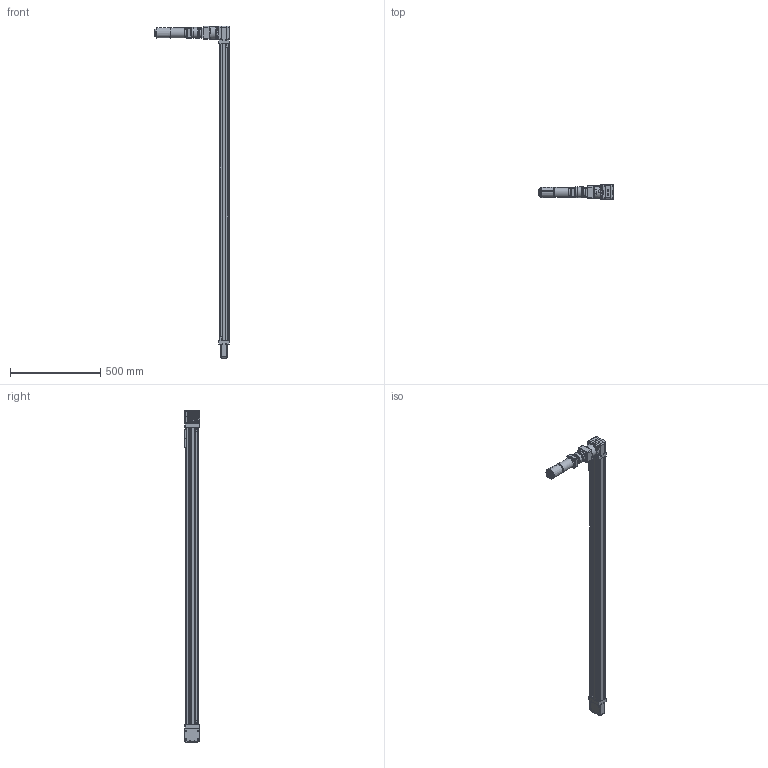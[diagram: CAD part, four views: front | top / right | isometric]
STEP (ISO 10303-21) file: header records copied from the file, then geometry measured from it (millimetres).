
FILE_DESCRIPTION (( 'STEP AP203' ), '1' );
FILE_NAME ('B3W10_BWS18_SK60.000_B3W-479241-1.step', '2025-01-17T15:17:10', ( '' ), ( '' ), 'SwSTEP 2.0', 'SolidWorks 2024', '' );
FILE_SCHEMA (( 'CONFIG_CONTROL_DESIGN' ));
Length unit declared in the file: inch
Products named in the file (5): tempJoin0_36049451_B3W10_BWS18_SK60.000_B3W-479241-1; Base_B3W10_BWS18_SK60.000_B3W-479241-1; 34109070_B3W10_BWS18_SK60.000_B3W-479241-1; tempJoin5_45109055_B3W10_BWS18_SK60.000_B3W-479241-1; B3W10_BWS18_SK60.000_B3W-479241-1
Assembly tree (4 placements, depth 2):
  B3W10_BWS18_SK60.000_B3W-479241-1
    34109070_B3W10_BWS18_SK60.000_B3W-479241-1
    tempJoin5_45109055_B3W10_BWS18_SK60.000_B3W-479241-1
    tempJoin0_36049451_B3W10_BWS18_SK60.000_B3W-479241-1
    Base_B3W10_BWS18_SK60.000_B3W-479241-1
Bounding box: 413.11 x 84.33 x 1840.48 mm (x, y, z)
Volume: 7118470.3 mm3; surface area: 992417.1 mm2
Topology: 8 solids, 42 shells, 2109 faces, 5100 edges, 3320 vertices
Faces by surface type: plane 1310, cylinder 516, cone 139, bspline 70, torus 46, sphere 28
Full cylindrical faces by diameter (mm): 0.7 x17, 1 x5, 1.2 x8, 2.013 x2, 3.1 x5, 3.3 x10, 3.4 x1, 3.454 x1, 3.797 x8, 3.969 x4, 4 x5, 4.191 x4, 4.2 x5, 4.201 x4, 4.3 x2, 4.318 x1, 4.5 x2, 4.648 x4, 4.826 x4, 5 x16, 5.001 x4, 5.105 x4, 5.2 x10, 5.588 x12, 5.6 x1, 5.69 x4, 6 x5, 6.35 x1, 6.375 x2, 6.858 x4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
Entity records: 65878 total; most frequent: CARTESIAN_POINT 18765, DIRECTION 9409, ORIENTED_EDGE 8956, EDGE_CURVE 4478, AXIS2_PLACEMENT_3D 3339, VERTEX_POINT 3155, EDGE_LOOP 2901, LINE 2731
